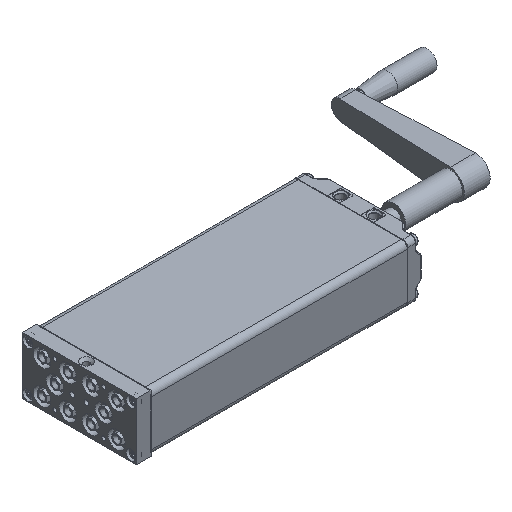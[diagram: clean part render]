
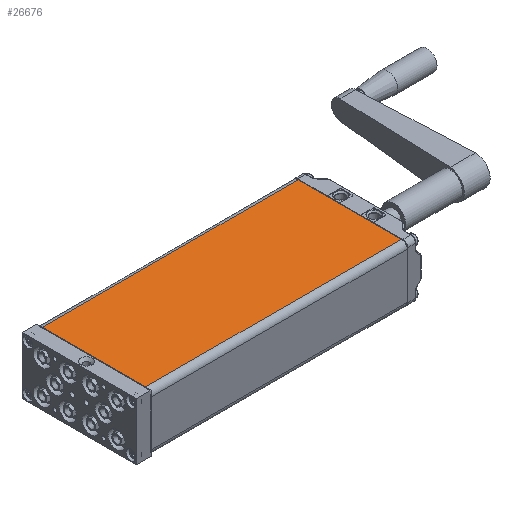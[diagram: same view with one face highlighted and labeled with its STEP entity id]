
A CAD part, isometric view. The second image highlights one B-rep face of the part: STEP entity #26676.
In plain terms, the highlighted planar face has unit normal (0, 0, 1).
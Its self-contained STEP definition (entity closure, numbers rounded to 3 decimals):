
#2507=LINE('',#63609,#3574);
#2508=LINE('',#63612,#3575);
#2509=LINE('',#63614,#3576);
#2510=LINE('',#63616,#3577);
#3574=VECTOR('',#32951,1000.);
#3575=VECTOR('',#32952,1000.);
#3576=VECTOR('',#32953,1000.);
#3577=VECTOR('',#32954,1000.);
#4008=PLANE('',#28508);
#8876=ORIENTED_EDGE('',*,*,#11928,.T.);
#8877=ORIENTED_EDGE('',*,*,#11929,.T.);
#8878=ORIENTED_EDGE('',*,*,#11930,.T.);
#8879=ORIENTED_EDGE('',*,*,#11931,.T.);
#11928=EDGE_CURVE('',#13715,#13716,#2507,.F.);
#11929=EDGE_CURVE('',#13716,#13717,#2508,.T.);
#11930=EDGE_CURVE('',#13717,#13718,#2509,.T.);
#11931=EDGE_CURVE('',#13718,#13715,#2510,.F.);
#13715=VERTEX_POINT('',#63610);
#13716=VERTEX_POINT('',#63611);
#13717=VERTEX_POINT('',#63613);
#13718=VERTEX_POINT('',#63615);
#15945=EDGE_LOOP('',(#8876,#8877,#8878,#8879));
#17490=FACE_BOUND('',#15945,.T.);
#26676=ADVANCED_FACE('',(#17490),#4008,.T.);
#28508=AXIS2_PLACEMENT_3D('',#63608,#32949,#32950);
#32949=DIRECTION('',(0.,0.,1.));
#32950=DIRECTION('',(1.,0.,0.));
#32951=DIRECTION('',(0.,-1.,0.));
#32952=DIRECTION('',(-1.,0.,0.));
#32953=DIRECTION('',(0.,-1.,0.));
#32954=DIRECTION('',(-1.,0.,0.));
#63608=CARTESIAN_POINT('',(60.,268.5,30.));
#63609=CARTESIAN_POINT('',(54.,268.5,30.));
#63610=CARTESIAN_POINT('',(54.,0.5,30.));
#63611=CARTESIAN_POINT('',(54.,268.,30.));
#63612=CARTESIAN_POINT('',(60.,268.,30.));
#63613=CARTESIAN_POINT('',(-54.,268.,30.));
#63614=CARTESIAN_POINT('',(-54.,268.5,30.));
#63615=CARTESIAN_POINT('',(-54.,0.5,30.));
#63616=CARTESIAN_POINT('',(54.,0.5,30.));
